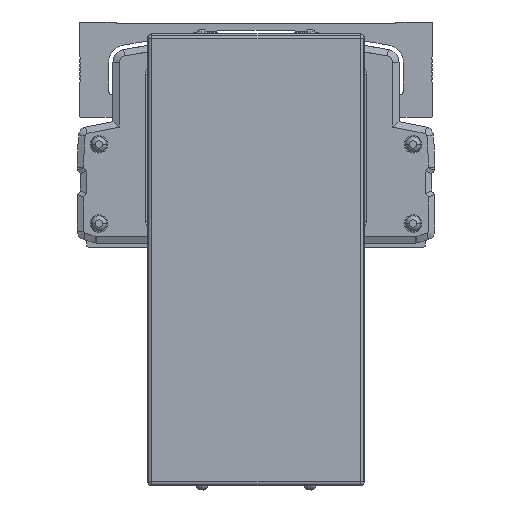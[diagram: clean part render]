
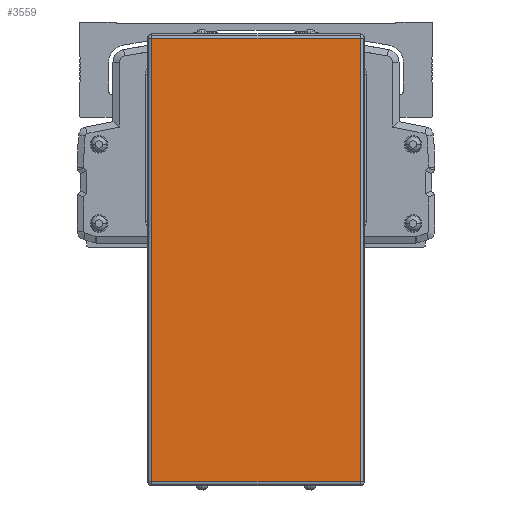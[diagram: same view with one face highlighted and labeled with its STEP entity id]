
A CAD part, front view. The second image highlights one B-rep face of the part: STEP entity #3559.
In plain terms, the highlighted planar face has unit normal (0, -1, 0).
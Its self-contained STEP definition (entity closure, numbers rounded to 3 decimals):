
#3559=ADVANCED_FACE('',(#8400),#8401,.T.);
#8400=FACE_OUTER_BOUND('',#15423,.T.);
#8401=PLANE('',#15424);
#15423=EDGE_LOOP('',(#26960,#26961,#26962,#26963));
#15424=AXIS2_PLACEMENT_3D('',#26964,#26965,#26966);
#26960=ORIENTED_EDGE('',*,*,#41781,.F.);
#26961=ORIENTED_EDGE('',*,*,#43108,.F.);
#26962=ORIENTED_EDGE('',*,*,#43109,.F.);
#26963=ORIENTED_EDGE('',*,*,#43110,.F.);
#26964=CARTESIAN_POINT('',(-600.,252.222,-57.8));
#26965=DIRECTION('',(0.,-1.0,0.));
#26966=DIRECTION('',(0.,0.,-1.0));
#41781=EDGE_CURVE('',#50537,#50539,#50540,.T.);
#43108=EDGE_CURVE('',#52658,#50537,#52659,.T.);
#43109=EDGE_CURVE('',#49955,#52658,#52660,.T.);
#43110=EDGE_CURVE('',#50539,#49955,#52661,.T.);
#49955=VERTEX_POINT('',#61878);
#50537=VERTEX_POINT('',#62773);
#50539=VERTEX_POINT('',#62775);
#50540=LINE('',#62776,#62777);
#52658=VERTEX_POINT('',#65934);
#52659=LINE('',#65935,#65936);
#52660=LINE('',#65937,#65938);
#52661=LINE('',#65939,#65940);
#61878=CARTESIAN_POINT('',(-552.,252.222,-160.1));
#62773=CARTESIAN_POINT('',(-648.,252.222,44.5));
#62775=CARTESIAN_POINT('',(-552.,252.222,44.5));
#62776=CARTESIAN_POINT('',(-600.,252.222,44.5));
#62777=VECTOR('',#76146,10.0);
#65934=CARTESIAN_POINT('',(-648.,252.222,-160.1));
#65935=CARTESIAN_POINT('',(-648.,252.222,-57.8));
#65936=VECTOR('',#77780,10.0);
#65937=CARTESIAN_POINT('',(-600.,252.222,-160.1));
#65938=VECTOR('',#77781,10.0);
#65939=CARTESIAN_POINT('',(-552.,252.222,-57.8));
#65940=VECTOR('',#77782,10.0);
#76146=DIRECTION('',(1.0,0.,0.));
#77780=DIRECTION('',(0.,0.,1.0));
#77781=DIRECTION('',(-1.0,0.,0.));
#77782=DIRECTION('',(0.,0.,-1.0));
